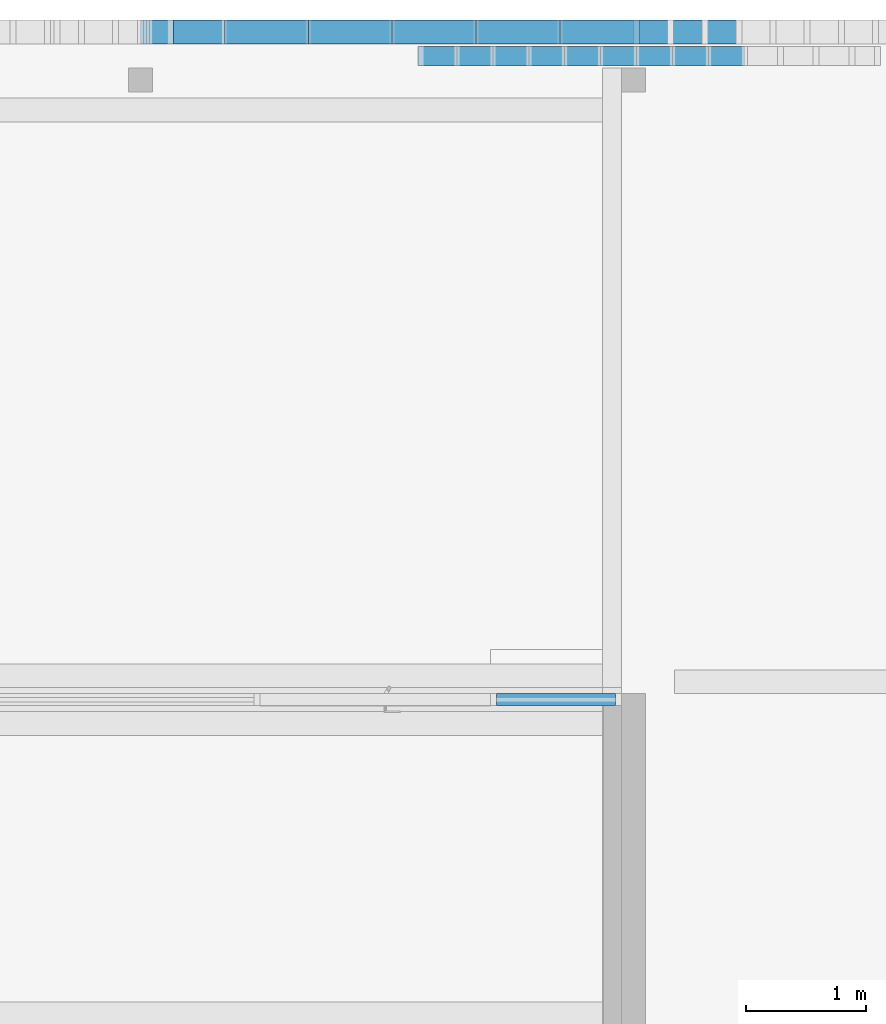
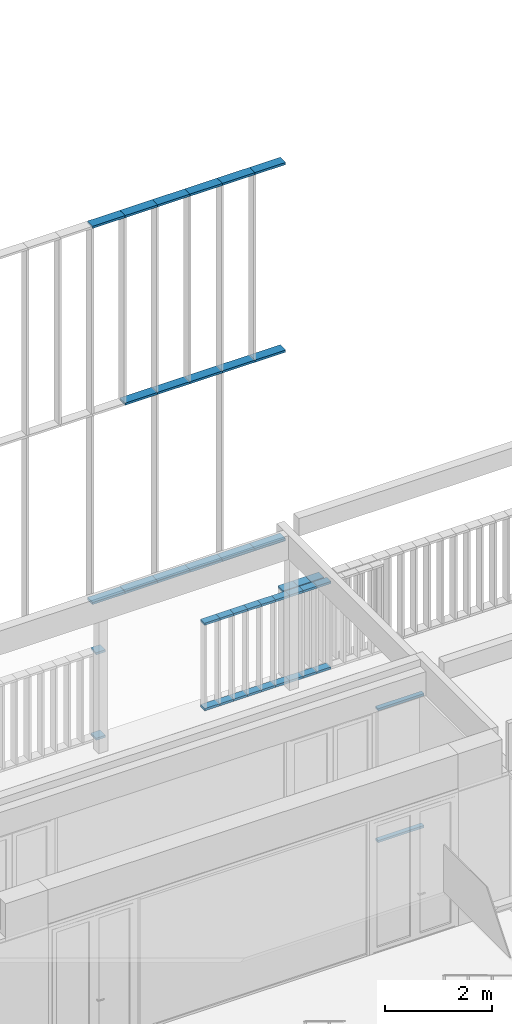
# One storey, part 47 of 240: 47 members, 5 elements without a shape of their own.
"""IFC2X3 building model written with IfcOpenShell, lengths in centimetres."""

from ifc_helpers import new_model, entity, si_unit, converted_unit, derived_unit, direction, frame, origin, origin_2d_with_axis, place, context, subcontext, project, spatial, rectangle, extrude, source, transform, mapped, material, type_object, type_shapes, element, aggregate, save


model = new_model("IFC2X3")

# Units and contexts
model_context = context("Model", 3, precision=0.001, world=origin(), true_north=direction((6.12303176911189e-17, 1.0)))
body_context = subcontext(model_context, "Body", "Model", "MODEL_VIEW")
ifc_project = project(units=[si_unit("LENGTHUNIT", "METRE", prefix="CENTI"), si_unit("AREAUNIT", "SQUARE_METRE"), si_unit("VOLUMEUNIT", "CUBIC_METRE"), converted_unit("PLANEANGLEUNIT", "DEGREE", entity("IfcRatioMeasure", 0.0174532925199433), si_unit("PLANEANGLEUNIT", "RADIAN"), dimensions=[0, 0, 0, 0, 0, 0, 0]), si_unit("MASSUNIT", "GRAM", prefix="KILO"), derived_unit("MASSDENSITYUNIT", [(si_unit("MASSUNIT", "GRAM", prefix="KILO"), 1), (si_unit("LENGTHUNIT", "METRE"), -3)]), si_unit("TIMEUNIT", "SECOND"), si_unit("FREQUENCYUNIT", "HERTZ"), si_unit("THERMODYNAMICTEMPERATUREUNIT", "DEGREE_CELSIUS"), derived_unit("THERMALTRANSMITTANCEUNIT", [(si_unit("MASSUNIT", "GRAM", prefix="KILO"), 1), (si_unit("THERMODYNAMICTEMPERATUREUNIT", "KELVIN"), -1), (si_unit("TIMEUNIT", "SECOND"), -3)]), derived_unit("VOLUMETRICFLOWRATEUNIT", [(si_unit("LENGTHUNIT", "METRE"), 3), (si_unit("TIMEUNIT", "SECOND"), -1)]), si_unit("ELECTRICCURRENTUNIT", "AMPERE"), si_unit("ELECTRICVOLTAGEUNIT", "VOLT"), si_unit("POWERUNIT", "WATT"), si_unit("FORCEUNIT", "NEWTON", prefix="KILO"), si_unit("ILLUMINANCEUNIT", "LUX"), si_unit("LUMINOUSFLUXUNIT", "LUMEN"), si_unit("LUMINOUSINTENSITYUNIT", "CANDELA"), derived_unit("USERDEFINED", [(si_unit("MASSUNIT", "GRAM", prefix="KILO"), -1), (si_unit("LENGTHUNIT", "METRE"), -2), (si_unit("TIMEUNIT", "SECOND"), 3), (si_unit("LUMINOUSFLUXUNIT", "LUMEN"), 1)]), derived_unit("LINEARVELOCITYUNIT", [(si_unit("LENGTHUNIT", "METRE"), 1), (si_unit("TIMEUNIT", "SECOND"), -1)]), si_unit("PRESSUREUNIT", "PASCAL"), derived_unit("USERDEFINED", [(si_unit("LENGTHUNIT", "METRE"), -2), (si_unit("MASSUNIT", "GRAM", prefix="KILO"), 1), (si_unit("TIMEUNIT", "SECOND"), -2)])], contexts=[model_context])

# Site, building, storey
site_placement = place(None, frame((-2781.94577612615, 7442.24238424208, 0.0)))
site = spatial("IfcSite", under=ifc_project, at=site_placement, Name="Default", CompositionType="ELEMENT")
building_placement = place(site_placement, origin())
building = spatial("IfcBuilding", under=site, at=building_placement, CompositionType="ELEMENT")
storey_placement = place(building_placement, origin())
storey = spatial("IfcBuildingStorey", under=building, at=storey_placement, Name="N00 - COO", CompositionType="ELEMENT", Elevation=0.0)

# Curtain wall, members
curtain_wall_type_1 = type_object("IfcCurtainWallType", Name="Mur-rideau:Epines - 200x50mm", PredefinedType="NOTDEFINED")
curtain_wall_1_placement = place(building_placement, origin())
curtain_wall_1 = element("IfcCurtainWall", 1, at=curtain_wall_1_placement, inside=storey, type_object=curtain_wall_type_1, Name="Mur-rideau:Epines - 200x50mm", ObjectType="Mur-rideau:Epines - 200x50mm")
ifc_material_1 = material(Name="Aluminium")
member_type_1 = type_object("IfcMemberType", Name="200x50 mm", PredefinedType="MEMBER")
shared_shape_1 = source(origin(), body_context, "Body", "SweptSolid", [
    extrude(rectangle(XDim=20.0, YDim=5.0, at=origin_2d_with_axis()), frame((-2.5, 0.0, -66.5000026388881), z_axis=(0.0, 0.0, 1.0), x_axis=(0.0, -1.0, 0.0)), (0.0, 0.0, 1.0), 66.5000026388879),
])
type_shapes(member_type_1, [shared_shape_1])
member_1_placement = place(building_placement, frame((-3652.99987652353, 40.0, 1176.0), z_axis=(1.0, 0.0, 0.0), x_axis=(0.0, 0.0, 1.0)))
member_1 = element("IfcMember", 2, at=member_1_placement, type_object=member_type_1, material=ifc_material_1, Name="Meneau rectangulaire:200x50 mm", ObjectType="Meneau rectangulaire:200x50 mm", context=body_context, shape_type="MappedRepresentation", body=[
    mapped(shared_shape_1, transform((0.0, 0.0, 0.0), scale=1.0)),
])
member_type_2 = type_object("IfcMemberType", Name="200x50 mm", PredefinedType="MEMBER")
shared_shape_2 = source(origin(), body_context, "Body", "SweptSolid", [
    extrude(rectangle(XDim=20.0, YDim=5.0, at=origin_2d_with_axis()), frame((-2.5, 0.0, -70.0), z_axis=(0.0, 0.0, 1.0), x_axis=(0.0, -1.0, 0.0)), (0.0, 0.0, 1.0), 70.0000000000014),
])
type_shapes(member_type_2, [shared_shape_2])
member_2_placement = place(building_placement, frame((-3929.49987760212, 40.0, 1176.0), z_axis=(1.0, 0.0, 0.0), x_axis=(0.0, 0.0, 1.0)))
member_2 = element("IfcMember", 3, at=member_2_placement, type_object=member_type_2, material=ifc_material_1, Name="Meneau rectangulaire:200x50 mm", ObjectType="Meneau rectangulaire:200x50 mm", context=body_context, shape_type="MappedRepresentation", body=[
    mapped(shared_shape_2, transform((0.0, 0.0, 0.0), scale=1.0)),
])
member_3_placement = place(building_placement, frame((-3789.49987864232, 40.0, 1176.0), z_axis=(1.0, 0.0, 0.0), x_axis=(0.0, 0.0, 1.0)))
member_3 = element("IfcMember", 4, at=member_3_placement, type_object=member_type_2, material=ifc_material_1, Name="Meneau rectangulaire:200x50 mm", ObjectType="Meneau rectangulaire:200x50 mm", context=body_context, shape_type="MappedRepresentation", body=[
    mapped(shared_shape_2, transform((0.0, 0.0, 0.0), scale=1.0)),
])
member_4_placement = place(building_placement, frame((-3719.49987916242, 40.0, 1176.0), z_axis=(1.0, 0.0, 0.0), x_axis=(0.0, 0.0, 1.0)))
member_4 = element("IfcMember", 5, at=member_4_placement, type_object=member_type_2, material=ifc_material_1, Name="Meneau rectangulaire:200x50 mm", ObjectType="Meneau rectangulaire:200x50 mm", context=body_context, shape_type="MappedRepresentation", body=[
    mapped(shared_shape_2, transform((0.0, 0.0, 0.0), scale=1.0)),
])
member_5_placement = place(building_placement, frame((-3859.49987812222, 40.0, 1176.0), z_axis=(1.0, 0.0, 0.0), x_axis=(0.0, 0.0, 1.0)))
member_5 = element("IfcMember", 6, at=member_5_placement, type_object=member_type_2, material=ifc_material_1, Name="Meneau rectangulaire:200x50 mm", ObjectType="Meneau rectangulaire:200x50 mm", context=body_context, shape_type="MappedRepresentation", body=[
    mapped(shared_shape_2, transform((0.0, 0.0, 0.0), scale=1.0)),
])
member_6_placement = place(building_placement, frame((-3999.49995959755, 40.0, 1176.0), z_axis=(1.0, 0.0, 0.0), x_axis=(0.0, 0.0, 1.0)))
member_6 = element("IfcMember", 7, at=member_6_placement, type_object=member_type_2, material=ifc_material_1, Name="Meneau rectangulaire:200x50 mm", ObjectType="Meneau rectangulaire:200x50 mm", context=body_context, shape_type="MappedRepresentation", body=[
    mapped(shared_shape_2, transform((0.0, 0.0, 0.0), scale=1.0)),
])
member_type_3 = type_object("IfcMemberType", Name="200x50 mm", PredefinedType="MEMBER")
shared_shape_3 = source(origin(), body_context, "Body", "SweptSolid", [
    extrude(rectangle(XDim=20.0, YDim=5.0, at=origin_2d_with_axis()), frame((0.0, 0.0, -70.0), z_axis=(0.0, 0.0, 1.0), x_axis=(0.0, -1.0, 0.0)), (0.0, 0.0, 1.0), 70.0000000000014),
])
type_shapes(member_type_3, [shared_shape_3])
member_7_placement = place(building_placement, frame((-3999.49995959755, 40.0, 315.0), z_axis=(1.0, 0.0, 0.0), x_axis=(0.0, 0.0, 1.0)))
member_7 = element("IfcMember", 8, at=member_7_placement, type_object=member_type_3, material=ifc_material_1, Name="Meneau rectangulaire:200x50 mm", ObjectType="Meneau rectangulaire:200x50 mm", context=body_context, shape_type="MappedRepresentation", body=[
    mapped(shared_shape_3, transform((0.0, 0.0, 0.0), scale=1.0)),
])
member_8_placement = place(building_placement, frame((-3859.49987812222, 40.0, 315.0), z_axis=(1.0, 0.0, 0.0), x_axis=(0.0, 0.0, 1.0)))
member_8 = element("IfcMember", 9, at=member_8_placement, type_object=member_type_3, material=ifc_material_1, Name="Meneau rectangulaire:200x50 mm", ObjectType="Meneau rectangulaire:200x50 mm", context=body_context, shape_type="MappedRepresentation", body=[
    mapped(shared_shape_3, transform((0.0, 0.0, 0.0), scale=1.0)),
])
member_9_placement = place(building_placement, frame((-3719.49987916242, 40.0, 315.0), z_axis=(1.0, 0.0, 0.0), x_axis=(0.0, 0.0, 1.0)))
member_9 = element("IfcMember", 10, at=member_9_placement, type_object=member_type_3, material=ifc_material_1, Name="Meneau rectangulaire:200x50 mm", ObjectType="Meneau rectangulaire:200x50 mm", context=body_context, shape_type="MappedRepresentation", body=[
    mapped(shared_shape_3, transform((0.0, 0.0, 0.0), scale=1.0)),
])
member_type_4 = type_object("IfcMemberType", Name="200x50 mm", PredefinedType="MEMBER")
shared_shape_4 = source(origin(), body_context, "Body", "SweptSolid", [
    extrude(rectangle(XDim=20.0, YDim=5.0, at=origin_2d_with_axis()), frame((0.0, 0.0, -70.0), z_axis=(0.0, 0.0, 1.0), x_axis=(0.0, -1.0, 0.0)), (0.0, 0.0, 1.0), 70.0000000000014),
])
type_shapes(member_type_4, [shared_shape_4])
member_10_placement = place(building_placement, frame((-3859.49987812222, 40.0, 745.5), z_axis=(1.0, 0.0, 0.0), x_axis=(0.0, 0.0, 1.0)))
member_10 = element("IfcMember", 11, at=member_10_placement, type_object=member_type_4, material=ifc_material_1, Name="Meneau rectangulaire:200x50 mm", ObjectType="Meneau rectangulaire:200x50 mm", context=body_context, shape_type="MappedRepresentation", body=[
    mapped(shared_shape_4, transform((0.0, 0.0, 0.0), scale=1.0)),
])
member_11_placement = place(building_placement, frame((-3719.49987916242, 40.0, 745.5), z_axis=(1.0, 0.0, 0.0), x_axis=(0.0, 0.0, 1.0)))
member_11 = element("IfcMember", 12, at=member_11_placement, type_object=member_type_4, material=ifc_material_1, Name="Meneau rectangulaire:200x50 mm", ObjectType="Meneau rectangulaire:200x50 mm", context=body_context, shape_type="MappedRepresentation", body=[
    mapped(shared_shape_4, transform((0.0, 0.0, 0.0), scale=1.0)),
])
member_12_placement = place(building_placement, frame((-3789.49987864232, 40.0, 745.5), z_axis=(1.0, 0.0, 0.0), x_axis=(0.0, 0.0, 1.0)))
member_12 = element("IfcMember", 13, at=member_12_placement, type_object=member_type_4, material=ifc_material_1, Name="Meneau rectangulaire:200x50 mm", ObjectType="Meneau rectangulaire:200x50 mm", context=body_context, shape_type="MappedRepresentation", body=[
    mapped(shared_shape_4, transform((0.0, 0.0, 0.0), scale=1.0)),
])
member_13_placement = place(building_placement, frame((-3929.49987760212, 40.0, 745.5), z_axis=(1.0, 0.0, 0.0), x_axis=(0.0, 0.0, 1.0)))
member_13 = element("IfcMember", 14, at=member_13_placement, type_object=member_type_4, material=ifc_material_1, Name="Meneau rectangulaire:200x50 mm", ObjectType="Meneau rectangulaire:200x50 mm", context=body_context, shape_type="MappedRepresentation", body=[
    mapped(shared_shape_4, transform((0.0, 0.0, 0.0), scale=1.0)),
])
member_type_5 = type_object("IfcMemberType", Name="200x50 mm", PredefinedType="MEMBER")
shared_shape_5 = source(origin(), body_context, "Body", "SweptSolid", [
    extrude(rectangle(XDim=20.0, YDim=5.0, at=origin_2d_with_axis()), frame((-2.5, 0.0, -70.0), z_axis=(0.0, 0.0, 1.0), x_axis=(0.0, -1.0, 0.0)), (0.0, 0.0, 1.0), 69.9999999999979),
])
type_shapes(member_type_5, [shared_shape_5])
member_14_placement = place(building_placement, frame((-3929.49987760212, 40.0, 313.499999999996), z_axis=(-1.0, 0.0, 0.0), x_axis=(0.0, 0.0, -1.0)))
member_14 = element("IfcMember", 15, at=member_14_placement, type_object=member_type_5, material=ifc_material_1, Name="Meneau rectangulaire:200x50 mm", ObjectType="Meneau rectangulaire:200x50 mm", context=body_context, shape_type="MappedRepresentation", body=[
    mapped(shared_shape_5, transform((0.0, 0.0, 0.0), scale=1.0)),
])
member_15_placement = place(building_placement, frame((-3789.49987864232, 40.0, 313.499999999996), z_axis=(-1.0, 0.0, 0.0), x_axis=(0.0, 0.0, -1.0)))
member_15 = element("IfcMember", 16, at=member_15_placement, type_object=member_type_5, material=ifc_material_1, Name="Meneau rectangulaire:200x50 mm", ObjectType="Meneau rectangulaire:200x50 mm", context=body_context, shape_type="MappedRepresentation", body=[
    mapped(shared_shape_5, transform((0.0, 0.0, 0.0), scale=1.0)),
])
member_16_placement = place(building_placement, frame((-3859.49987812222, 40.0, 313.499999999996), z_axis=(-1.0, 0.0, 0.0), x_axis=(0.0, 0.0, -1.0)))
member_16 = element("IfcMember", 17, at=member_16_placement, type_object=member_type_5, material=ifc_material_1, Name="Meneau rectangulaire:200x50 mm", ObjectType="Meneau rectangulaire:200x50 mm", context=body_context, shape_type="MappedRepresentation", body=[
    mapped(shared_shape_5, transform((0.0, 0.0, 0.0), scale=1.0)),
])
member_17_placement = place(building_placement, frame((-3999.49995959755, 40.0, 313.499999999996), z_axis=(-1.0, 0.0, 0.0), x_axis=(0.0, 0.0, -1.0)))
member_17 = element("IfcMember", 18, at=member_17_placement, type_object=member_type_5, material=ifc_material_1, Name="Meneau rectangulaire:200x50 mm", ObjectType="Meneau rectangulaire:200x50 mm", context=body_context, shape_type="MappedRepresentation", body=[
    mapped(shared_shape_5, transform((0.0, 0.0, 0.0), scale=1.0)),
])
member_type_6 = type_object("IfcMemberType", Name="200x50 mm", PredefinedType="MEMBER")
shared_shape_6 = source(origin(), body_context, "Body", "SweptSolid", [
    extrude(rectangle(XDim=20.0, YDim=5.0, at=origin_2d_with_axis()), frame((0.0, 0.0, -70.0), z_axis=(0.0, 0.0, 1.0), x_axis=(0.0, -1.0, 0.0)), (0.0, 0.0, 1.0), 70.0000000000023),
])
type_shapes(member_type_6, [shared_shape_6])
member_18_placement = place(building_placement, frame((-3929.49987760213, 40.0, 315.0), z_axis=(1.0, 0.0, 0.0), x_axis=(0.0, 0.0, 1.0)))
member_18 = element("IfcMember", 19, at=member_18_placement, type_object=member_type_6, material=ifc_material_1, Name="Meneau rectangulaire:200x50 mm", ObjectType="Meneau rectangulaire:200x50 mm", context=body_context, shape_type="MappedRepresentation", body=[
    mapped(shared_shape_6, transform((0.0, 0.0, 0.0), scale=1.0)),
])
member_19_placement = place(building_placement, frame((-3789.49987864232, 40.0, 315.0), z_axis=(1.0, 0.0, 0.0), x_axis=(0.0, 0.0, 1.0)))
member_19 = element("IfcMember", 20, at=member_19_placement, type_object=member_type_6, material=ifc_material_1, Name="Meneau rectangulaire:200x50 mm", ObjectType="Meneau rectangulaire:200x50 mm", context=body_context, shape_type="MappedRepresentation", body=[
    mapped(shared_shape_6, transform((0.0, 0.0, 0.0), scale=1.0)),
])
member_type_7 = type_object("IfcMemberType", Name="200x50 mm", PredefinedType="MEMBER")
shared_shape_7 = source(origin(), body_context, "Body", "SweptSolid", [
    extrude(rectangle(XDim=20.0, YDim=5.0, at=origin_2d_with_axis()), frame((-2.5, 0.0, -66.5000026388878), z_axis=(0.0, 0.0, 1.0), x_axis=(0.0, -1.0, 0.0)), (0.0, 0.0, 1.0), 66.5000026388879),
])
type_shapes(member_type_7, [shared_shape_7])
member_20_placement = place(building_placement, frame((-3719.49987916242, 40.0, 313.499999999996), z_axis=(-1.0, 0.0, 0.0), x_axis=(0.0, 0.0, -1.0)))
member_20 = element("IfcMember", 21, at=member_20_placement, type_object=member_type_7, material=ifc_material_1, Name="Meneau rectangulaire:200x50 mm", ObjectType="Meneau rectangulaire:200x50 mm", context=body_context, shape_type="MappedRepresentation", body=[
    mapped(shared_shape_7, transform((0.0, 0.0, 0.0), scale=1.0)),
])
member_type_8 = type_object("IfcMemberType", Name="200x50 mm", PredefinedType="MEMBER")
shared_shape_8 = source(origin(), body_context, "Body", "SweptSolid", [
    extrude(rectangle(XDim=20.0, YDim=5.0, at=origin_2d_with_axis()), frame((0.0, 0.0, -66.500002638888), z_axis=(0.0, 0.0, 1.0), x_axis=(0.0, -1.0, 0.0)), (0.0, 0.0, 1.0), 66.5000026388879),
])
type_shapes(member_type_8, [shared_shape_8])
member_21_placement = place(building_placement, frame((-3652.99987652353, 40.0, 745.5), z_axis=(1.0, 0.0, 0.0), x_axis=(0.0, 0.0, 1.0)))
member_21 = element("IfcMember", 22, at=member_21_placement, type_object=member_type_8, material=ifc_material_1, Name="Meneau rectangulaire:200x50 mm", ObjectType="Meneau rectangulaire:200x50 mm", context=body_context, shape_type="MappedRepresentation", body=[
    mapped(shared_shape_8, transform((0.0, 0.0, 0.0), scale=1.0)),
])
member_type_9 = type_object("IfcMemberType", Name="200x50 mm", PredefinedType="MEMBER")
shared_shape_9 = source(origin(), body_context, "Body", "SweptSolid", [
    extrude(rectangle(XDim=20.0, YDim=5.0, at=origin_2d_with_axis()), frame((0.0, 0.0, -66.5000026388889), z_axis=(0.0, 0.0, 1.0), x_axis=(0.0, -1.0, 0.0)), (0.0, 0.0, 1.0), 66.5000026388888),
])
type_shapes(member_type_9, [shared_shape_9])
member_22_placement = place(building_placement, frame((-3652.99987652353, 40.0, 315.0), z_axis=(1.0, 0.0, 0.0), x_axis=(0.0, 0.0, 1.0)))
member_22 = element("IfcMember", 23, at=member_22_placement, type_object=member_type_9, material=ifc_material_1, Name="Meneau rectangulaire:200x50 mm", ObjectType="Meneau rectangulaire:200x50 mm", context=body_context, shape_type="MappedRepresentation", body=[
    mapped(shared_shape_9, transform((0.0, 0.0, 0.0), scale=1.0)),
])
aggregate(curtain_wall_1, [member_1, member_2, member_14, member_10, member_3, member_15, member_11, member_4, member_20, member_21, member_5, member_16, member_12, member_6, member_17, member_13, member_7, member_18, member_8, member_19, member_9, member_22])

curtain_wall_type_2 = type_object("IfcCurtainWallType", Name="Mur-rideau:SR-Clôture", PredefinedType="NOTDEFINED")
curtain_wall_2_placement = place(building_placement, origin())
curtain_wall_2 = element("IfcCurtainWall", 24, at=curtain_wall_2_placement, inside=storey, type_object=curtain_wall_type_2, Name="Mur-rideau:SR-Clôture", ObjectType="Mur-rideau:SR-Clôture")
member_type_10 = type_object("IfcMemberType", Name="Epine nord (200x50 mm)", PredefinedType="MEMBER")
shared_shape_10 = source(origin(), body_context, "Body", "SweptSolid", [
    extrude(rectangle(XDim=20.0, YDim=5.0, at=origin_2d_with_axis()), frame((-2.5, 0.0, -31.0), z_axis=(0.0, 0.0, 1.0), x_axis=(0.0, -1.0, 0.0)), (0.0, 0.0, 1.0), 31.0000000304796),
])
type_shapes(member_type_10, [shared_shape_10])
member_23_placement = place(building_placement, frame((-3626.99987965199, 40.0, 200.0), z_axis=(1.0, 0.0, 0.0), x_axis=(0.0, 0.0, 1.0)))
member_23 = element("IfcMember", 25, at=member_23_placement, type_object=member_type_10, material=ifc_material_1, Name="Meneau rectangulaire:Epine nord (200x50 mm)", ObjectType="Meneau rectangulaire:Epine nord (200x50 mm)", context=body_context, shape_type="MappedRepresentation", body=[
    mapped(shared_shape_10, transform((0.0, 0.0, 0.0), scale=1.0)),
])
member_type_11 = type_object("IfcMemberType", Name="Epine nord (200x50 mm)", PredefinedType="MEMBER")
shared_shape_11 = source(origin(), body_context, "Body", "SweptSolid", [
    extrude(rectangle(XDim=20.0, YDim=5.0, at=origin_2d_with_axis()), frame((-2.5, 0.0, -28.5000000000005), z_axis=(0.0, 0.0, 1.0), x_axis=(0.0, -1.0, 0.0)), (0.0, 0.0, 1.0), 28.5000000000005),
])
type_shapes(member_type_11, [shared_shape_11])
member_24_placement = place(building_placement, frame((-3598.49987965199, 40.0, 200.0), z_axis=(1.0, 0.0, 0.0), x_axis=(0.0, 0.0, 1.0)))
member_24 = element("IfcMember", 26, at=member_24_placement, type_object=member_type_11, material=ifc_material_1, Name="Meneau rectangulaire:Epine nord (200x50 mm)", ObjectType="Meneau rectangulaire:Epine nord (200x50 mm)", context=body_context, shape_type="MappedRepresentation", body=[
    mapped(shared_shape_11, transform((0.0, 0.0, 0.0), scale=1.0)),
])
member_25_placement = place(building_placement, frame((-3569.99987965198, 40.0, 200.0), z_axis=(1.0, 0.0, 0.0), x_axis=(0.0, 0.0, 1.0)))
member_25 = element("IfcMember", 27, at=member_25_placement, type_object=member_type_11, material=ifc_material_1, Name="Meneau rectangulaire:Epine nord (200x50 mm)", ObjectType="Meneau rectangulaire:Epine nord (200x50 mm)", context=body_context, shape_type="MappedRepresentation", body=[
    mapped(shared_shape_11, transform((0.0, 0.0, 0.0), scale=1.0)),
])
aggregate(curtain_wall_2, [member_23, member_24, member_25])

curtain_wall_type_3 = type_object("IfcCurtainWallType", Name="Mur-rideau:07 - mur rideau vitrage sans recoupement 10cm", PredefinedType="NOTDEFINED")
curtain_wall_3_placement = place(building_placement, origin())
curtain_wall_3 = element("IfcCurtainWall", 28, at=curtain_wall_3_placement, inside=storey, type_object=curtain_wall_type_3, Name="Mur-rideau:07 - mur rideau vitrage sans recoupement 10cm", ObjectType="Mur-rideau:07 - mur rideau vitrage sans recoupement 10cm")
ifc_material_2 = material(Name="Plastique, blanc opaque")
member_type_12 = type_object("IfcMemberType", Name="100 x 50mm", PredefinedType="MEMBER")
shared_shape_12 = source(origin(), body_context, "Body", "SweptSolid", [
    extrude(rectangle(XDim=10.0, YDim=5.0, at=origin_2d_with_axis()), frame((-2.5, 0.0, -99.2429547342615), z_axis=(0.0, 0.0, 1.0), x_axis=(0.0, -1.0, 0.0)), (0.0, 0.0, 1.0), 99.2429547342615),
])
type_shapes(member_type_12, [shared_shape_12])
member_26_placement = place(building_placement, frame((-3672.99987968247, -517.548500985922, 306.0), z_axis=(1.0, 0.0, 0.0), x_axis=(0.0, 0.0, 1.0)))
member_26 = element("IfcMember", 29, at=member_26_placement, type_object=member_type_12, material=ifc_material_2, Name="Meneau rectangulaire:100 x 50mm", ObjectType="Meneau rectangulaire:100 x 50mm", context=body_context, shape_type="MappedRepresentation", body=[
    mapped(shared_shape_12, transform((0.0, 0.0, 0.0), scale=1.0)),
])
member_type_13 = type_object("IfcMemberType", Name="100 x 50mm", PredefinedType="MEMBER")
shared_shape_13 = source(origin(), body_context, "Body", "SweptSolid", [
    extrude(rectangle(XDim=10.0, YDim=5.0, at=origin_2d_with_axis()), frame((-2.5, 0.0, -99.2429547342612), z_axis=(0.0, 0.0, 1.0), x_axis=(0.0, -1.0, 0.0)), (0.0, 0.0, 1.0), 99.2429547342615),
])
type_shapes(member_type_13, [shared_shape_13])
member_27_placement = place(building_placement, frame((-3772.24283441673, -517.548500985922, 0.0), z_axis=(-1.0, 0.0, 0.0), x_axis=(0.0, 0.0, -1.0)))
member_27 = element("IfcMember", 30, at=member_27_placement, type_object=member_type_13, material=ifc_material_2, Name="Meneau rectangulaire:100 x 50mm", ObjectType="Meneau rectangulaire:100 x 50mm", context=body_context, shape_type="MappedRepresentation", body=[
    mapped(shared_shape_13, transform((0.0, 0.0, 0.0), scale=1.0)),
])
aggregate(curtain_wall_3, [member_26, member_27])

curtain_wall_4_placement = place(building_placement, origin())
curtain_wall_4 = element("IfcCurtainWall", 31, at=curtain_wall_4_placement, inside=storey, type_object=curtain_wall_type_2, Name="Mur-rideau:SR-Clôture", ObjectType="Mur-rideau:SR-Clôture")
member_type_14 = type_object("IfcMemberType", Name="Epine nord (200x50 mm)", PredefinedType="MEMBER")
shared_shape_14 = source(origin(), body_context, "Body", "SweptSolid", [
    extrude(rectangle(XDim=20.0, YDim=5.0, at=origin_2d_with_axis()), frame((-2.5, 0.0, -20.0), z_axis=(0.0, 0.0, 1.0), x_axis=(0.0, -1.0, 0.0)), (0.0, 0.0, 1.0), 19.9999999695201),
])
type_shapes(member_type_14, [shared_shape_14])
member_28_placement = place(building_placement, frame((-4041.99291433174, 40.0, 200.0), z_axis=(1.0, 0.0, 0.0), x_axis=(0.0, 0.0, 1.0)))
member_28 = element("IfcMember", 32, at=member_28_placement, type_object=member_type_14, material=ifc_material_1, Name="Meneau rectangulaire:Epine nord (200x50 mm)", ObjectType="Meneau rectangulaire:Epine nord (200x50 mm)", context=body_context, shape_type="MappedRepresentation", body=[
    mapped(shared_shape_14, transform((0.0, 0.0, 0.0), scale=1.0)),
])
member_type_15 = type_object("IfcMemberType", Name="Epine nord (200x50 mm)", PredefinedType="MEMBER")
shared_shape_15 = source(origin(), body_context, "Body", "SweptSolid", [
    extrude(rectangle(XDim=20.0, YDim=5.0, at=origin_2d_with_axis()), frame((-2.5, 0.0, -20.0), z_axis=(0.0, 0.0, 1.0), x_axis=(0.0, -1.0, 0.0)), (0.0, 0.0, 1.0), 19.9999999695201),
])
type_shapes(member_type_15, [shared_shape_15])
member_29_placement = place(building_placement, frame((-4061.99291430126, 40.0, 0.0), z_axis=(-1.0, 0.0, 0.0), x_axis=(0.0, 0.0, -1.0)))
member_29 = element("IfcMember", 33, at=member_29_placement, type_object=member_type_15, material=ifc_material_1, Name="Meneau rectangulaire:Epine nord (200x50 mm)", ObjectType="Meneau rectangulaire:Epine nord (200x50 mm)", context=body_context, shape_type="MappedRepresentation", body=[
    mapped(shared_shape_15, transform((0.0, 0.0, 0.0), scale=1.0)),
])
aggregate(curtain_wall_4, [member_28, member_29])

curtain_wall_type_4 = type_object("IfcCurtainWallType", Name="Mur-SR", PredefinedType="NOTDEFINED")
curtain_wall_5_placement = place(storey_placement, origin())
curtain_wall_5 = element("IfcCurtainWall", 34, at=curtain_wall_5_placement, inside=storey, type_object=curtain_wall_type_4, Name="Mur-SR", ObjectType="Mur-SR")
member_type_16 = type_object("IfcMemberType", Name="Epine nord (160x50 mm)", PredefinedType="MEMBER")
shared_shape_16 = source(origin(), body_context, "Body", "SweptSolid", [
    extrude(rectangle(XDim=16.0, YDim=5.0, at=origin_2d_with_axis()), frame((-2.5, 0.0, -32.5000000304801), z_axis=(0.0, 0.0, 1.0), x_axis=(0.0, -1.0, 0.0)), (0.0, 0.0, 1.0), 32.5000000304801),
])
type_shapes(member_type_16, [shared_shape_16])
member_30_placement = place(storey_placement, frame((-3805.49987968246, 20.0, 200.0), z_axis=(1.0, 0.0, 0.0), x_axis=(0.0, 0.0, 1.0)))
member_30 = element("IfcMember", 35, at=member_30_placement, type_object=member_type_16, material=ifc_material_1, Name="Meneau rectangulaire:Epine nord (160x50 mm)", ObjectType="Meneau rectangulaire:Epine nord (160x50 mm)", context=body_context, shape_type="MappedRepresentation", body=[
    mapped(shared_shape_16, transform((0.0, 0.0, 0.0), scale=1.0)),
])
member_type_17 = type_object("IfcMemberType", Name="Epine nord (160x50 mm)", PredefinedType="MEMBER")
shared_shape_17 = source(origin(), body_context, "Body", "SweptSolid", [
    extrude(rectangle(XDim=16.0, YDim=5.0, at=origin_2d_with_axis()), frame((-2.5, 0.0, -30.0), z_axis=(0.0, 0.0, 1.0), x_axis=(0.0, -1.0, 0.0)), (0.0, 0.0, 1.0), 30.0000000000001),
])
type_shapes(member_type_17, [shared_shape_17])
member_31_placement = place(storey_placement, frame((-3775.49987968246, 20.0, 200.0), z_axis=(1.0, 0.0, 0.0), x_axis=(0.0, 0.0, 1.0)))
member_31 = element("IfcMember", 36, at=member_31_placement, type_object=member_type_17, material=ifc_material_1, Name="Meneau rectangulaire:Epine nord (160x50 mm)", ObjectType="Meneau rectangulaire:Epine nord (160x50 mm)", context=body_context, shape_type="MappedRepresentation", body=[
    mapped(shared_shape_17, transform((0.0, 0.0, 0.0), scale=1.0)),
])
member_32_placement = place(storey_placement, frame((-3745.49987968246, 20.0, 200.0), z_axis=(1.0, 0.0, 0.0), x_axis=(0.0, 0.0, 1.0)))
member_32 = element("IfcMember", 37, at=member_32_placement, type_object=member_type_17, material=ifc_material_1, Name="Meneau rectangulaire:Epine nord (160x50 mm)", ObjectType="Meneau rectangulaire:Epine nord (160x50 mm)", context=body_context, shape_type="MappedRepresentation", body=[
    mapped(shared_shape_17, transform((0.0, 0.0, 0.0), scale=1.0)),
])
member_33_placement = place(storey_placement, frame((-3715.49987968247, 20.0, 200.0), z_axis=(1.0, 0.0, 0.0), x_axis=(0.0, 0.0, 1.0)))
member_33 = element("IfcMember", 38, at=member_33_placement, type_object=member_type_17, material=ifc_material_1, Name="Meneau rectangulaire:Epine nord (160x50 mm)", ObjectType="Meneau rectangulaire:Epine nord (160x50 mm)", context=body_context, shape_type="MappedRepresentation", body=[
    mapped(shared_shape_17, transform((0.0, 0.0, 0.0), scale=1.0)),
])
member_34_placement = place(storey_placement, frame((-3685.49987968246, 20.0, 200.0), z_axis=(1.0, 0.0, 0.0), x_axis=(0.0, 0.0, 1.0)))
member_34 = element("IfcMember", 39, at=member_34_placement, type_object=member_type_17, material=ifc_material_1, Name="Meneau rectangulaire:Epine nord (160x50 mm)", ObjectType="Meneau rectangulaire:Epine nord (160x50 mm)", context=body_context, shape_type="MappedRepresentation", body=[
    mapped(shared_shape_17, transform((0.0, 0.0, 0.0), scale=1.0)),
])
member_35_placement = place(storey_placement, frame((-3655.49987968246, 20.0, 200.0), z_axis=(1.0, 0.0, 0.0), x_axis=(0.0, 0.0, 1.0)))
member_35 = element("IfcMember", 40, at=member_35_placement, type_object=member_type_17, material=ifc_material_1, Name="Meneau rectangulaire:Epine nord (160x50 mm)", ObjectType="Meneau rectangulaire:Epine nord (160x50 mm)", context=body_context, shape_type="MappedRepresentation", body=[
    mapped(shared_shape_17, transform((0.0, 0.0, 0.0), scale=1.0)),
])
member_36_placement = place(storey_placement, frame((-3625.49987968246, 20.0, 200.0), z_axis=(1.0, 0.0, 0.0), x_axis=(0.0, 0.0, 1.0)))
member_36 = element("IfcMember", 41, at=member_36_placement, type_object=member_type_17, material=ifc_material_1, Name="Meneau rectangulaire:Epine nord (160x50 mm)", ObjectType="Meneau rectangulaire:Epine nord (160x50 mm)", context=body_context, shape_type="MappedRepresentation", body=[
    mapped(shared_shape_17, transform((0.0, 0.0, 0.0), scale=1.0)),
])
member_37_placement = place(storey_placement, frame((-3595.49987968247, 20.0, 200.0), z_axis=(1.0, 0.0, 0.0), x_axis=(0.0, 0.0, 1.0)))
member_37 = element("IfcMember", 42, at=member_37_placement, type_object=member_type_17, material=ifc_material_1, Name="Meneau rectangulaire:Epine nord (160x50 mm)", ObjectType="Meneau rectangulaire:Epine nord (160x50 mm)", context=body_context, shape_type="MappedRepresentation", body=[
    mapped(shared_shape_17, transform((0.0, 0.0, 0.0), scale=1.0)),
])
member_38_placement = place(storey_placement, frame((-3565.49987968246, 20.0, 200.0), z_axis=(1.0, 0.0, 0.0), x_axis=(0.0, 0.0, 1.0)))
member_38 = element("IfcMember", 43, at=member_38_placement, type_object=member_type_17, material=ifc_material_1, Name="Meneau rectangulaire:Epine nord (160x50 mm)", ObjectType="Meneau rectangulaire:Epine nord (160x50 mm)", context=body_context, shape_type="MappedRepresentation", body=[
    mapped(shared_shape_17, transform((0.0, 0.0, 0.0), scale=1.0)),
])
member_type_18 = type_object("IfcMemberType", Name="Epine nord (160x50 mm)", PredefinedType="MEMBER")
shared_shape_18 = source(origin(), body_context, "Body", "SweptSolid", [
    extrude(rectangle(XDim=16.0, YDim=5.0, at=origin_2d_with_axis()), frame((-2.5, 0.0, -32.50000003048), z_axis=(0.0, 0.0, 1.0), x_axis=(0.0, -1.0, 0.0)), (0.0, 0.0, 1.0), 32.5000000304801),
])
type_shapes(member_type_18, [shared_shape_18])
member_39_placement = place(storey_placement, frame((-3837.99987971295, 20.0, 0.0), z_axis=(-1.0, 0.0, 0.0), x_axis=(0.0, 0.0, -1.0)))
member_39 = element("IfcMember", 44, at=member_39_placement, type_object=member_type_18, material=ifc_material_1, Name="Meneau rectangulaire:Epine nord (160x50 mm)", ObjectType="Meneau rectangulaire:Epine nord (160x50 mm)", context=body_context, shape_type="MappedRepresentation", body=[
    mapped(shared_shape_18, transform((0.0, 0.0, 0.0), scale=1.0)),
])
member_type_19 = type_object("IfcMemberType", Name="Epine nord (160x50 mm)", PredefinedType="MEMBER")
shared_shape_19 = source(origin(), body_context, "Body", "SweptSolid", [
    extrude(rectangle(XDim=16.0, YDim=5.0, at=origin_2d_with_axis()), frame((-2.5, 0.0, -30.0), z_axis=(0.0, 0.0, 1.0), x_axis=(0.0, -1.0, 0.0)), (0.0, 0.0, 1.0), 30.0000000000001),
])
type_shapes(member_type_19, [shared_shape_19])
member_40_placement = place(storey_placement, frame((-3805.49987968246, 20.0, 0.0), z_axis=(-1.0, 0.0, 0.0), x_axis=(0.0, 0.0, -1.0)))
member_40 = element("IfcMember", 45, at=member_40_placement, type_object=member_type_19, material=ifc_material_1, Name="Meneau rectangulaire:Epine nord (160x50 mm)", ObjectType="Meneau rectangulaire:Epine nord (160x50 mm)", context=body_context, shape_type="MappedRepresentation", body=[
    mapped(shared_shape_19, transform((0.0, 0.0, 0.0), scale=1.0)),
])
member_41_placement = place(storey_placement, frame((-3775.49987968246, 20.0, 0.0), z_axis=(-1.0, 0.0, 0.0), x_axis=(0.0, 0.0, -1.0)))
member_41 = element("IfcMember", 46, at=member_41_placement, type_object=member_type_19, material=ifc_material_1, Name="Meneau rectangulaire:Epine nord (160x50 mm)", ObjectType="Meneau rectangulaire:Epine nord (160x50 mm)", context=body_context, shape_type="MappedRepresentation", body=[
    mapped(shared_shape_19, transform((0.0, 0.0, 0.0), scale=1.0)),
])
member_42_placement = place(storey_placement, frame((-3745.49987968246, 20.0, 0.0), z_axis=(-1.0, 0.0, 0.0), x_axis=(0.0, 0.0, -1.0)))
member_42 = element("IfcMember", 47, at=member_42_placement, type_object=member_type_19, material=ifc_material_1, Name="Meneau rectangulaire:Epine nord (160x50 mm)", ObjectType="Meneau rectangulaire:Epine nord (160x50 mm)", context=body_context, shape_type="MappedRepresentation", body=[
    mapped(shared_shape_19, transform((0.0, 0.0, 0.0), scale=1.0)),
])
member_43_placement = place(storey_placement, frame((-3715.49987968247, 20.0, 0.0), z_axis=(-1.0, 0.0, 0.0), x_axis=(0.0, 0.0, -1.0)))
member_43 = element("IfcMember", 48, at=member_43_placement, type_object=member_type_19, material=ifc_material_1, Name="Meneau rectangulaire:Epine nord (160x50 mm)", ObjectType="Meneau rectangulaire:Epine nord (160x50 mm)", context=body_context, shape_type="MappedRepresentation", body=[
    mapped(shared_shape_19, transform((0.0, 0.0, 0.0), scale=1.0)),
])
member_44_placement = place(storey_placement, frame((-3685.49987968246, 20.0, 0.0), z_axis=(-1.0, 0.0, 0.0), x_axis=(0.0, 0.0, -1.0)))
member_44 = element("IfcMember", 49, at=member_44_placement, type_object=member_type_19, material=ifc_material_1, Name="Meneau rectangulaire:Epine nord (160x50 mm)", ObjectType="Meneau rectangulaire:Epine nord (160x50 mm)", context=body_context, shape_type="MappedRepresentation", body=[
    mapped(shared_shape_19, transform((0.0, 0.0, 0.0), scale=1.0)),
])
member_45_placement = place(storey_placement, frame((-3655.49987968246, 20.0, 0.0), z_axis=(-1.0, 0.0, 0.0), x_axis=(0.0, 0.0, -1.0)))
member_45 = element("IfcMember", 50, at=member_45_placement, type_object=member_type_19, material=ifc_material_1, Name="Meneau rectangulaire:Epine nord (160x50 mm)", ObjectType="Meneau rectangulaire:Epine nord (160x50 mm)", context=body_context, shape_type="MappedRepresentation", body=[
    mapped(shared_shape_19, transform((0.0, 0.0, 0.0), scale=1.0)),
])
member_46_placement = place(storey_placement, frame((-3625.49987968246, 20.0, 0.0), z_axis=(-1.0, 0.0, 0.0), x_axis=(0.0, 0.0, -1.0)))
member_46 = element("IfcMember", 51, at=member_46_placement, type_object=member_type_19, material=ifc_material_1, Name="Meneau rectangulaire:Epine nord (160x50 mm)", ObjectType="Meneau rectangulaire:Epine nord (160x50 mm)", context=body_context, shape_type="MappedRepresentation", body=[
    mapped(shared_shape_19, transform((0.0, 0.0, 0.0), scale=1.0)),
])
member_47_placement = place(storey_placement, frame((-3595.49987968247, 20.0, 0.0), z_axis=(-1.0, 0.0, 0.0), x_axis=(0.0, 0.0, -1.0)))
member_47 = element("IfcMember", 52, at=member_47_placement, type_object=member_type_19, material=ifc_material_1, Name="Meneau rectangulaire:Epine nord (160x50 mm)", ObjectType="Meneau rectangulaire:Epine nord (160x50 mm)", context=body_context, shape_type="MappedRepresentation", body=[
    mapped(shared_shape_19, transform((0.0, 0.0, 0.0), scale=1.0)),
])
aggregate(curtain_wall_5, [member_30, member_31, member_32, member_39, member_40, member_41, member_42, member_43, member_44, member_45, member_46, member_47, member_33, member_34, member_35, member_36, member_37, member_38])

save(model, "model.ifc")
